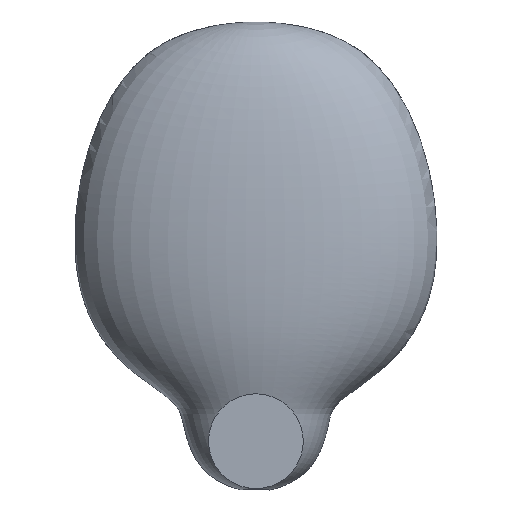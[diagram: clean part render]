
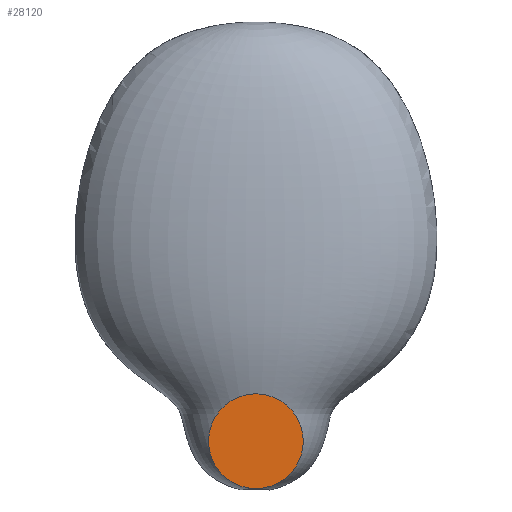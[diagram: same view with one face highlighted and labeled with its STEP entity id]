
A CAD part, top view. The second image highlights one B-rep face of the part: STEP entity #28120.
In plain terms, the highlighted planar face has unit normal (0, 0, 1).
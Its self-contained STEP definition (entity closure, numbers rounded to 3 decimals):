
#5188 = DIRECTION ( 'NONE',  ( 0., -1., 0. ) ) ;
#9320 = VERTEX_POINT ( 'NONE', #46495 ) ;
#10429 = CIRCLE ( 'NONE', #38172, 28.781 ) ;
#11693 = EDGE_LOOP ( 'NONE', ( #59361, #33556 ) ) ;
#11940 = DIRECTION ( 'NONE',  ( 0., -1., 0. ) ) ;
#17997 = CARTESIAN_POINT ( 'NONE',  ( 97.632, -1.111, 67.849 ) ) ;
#19686 = AXIS2_PLACEMENT_3D ( 'NONE', #82291, #70602, #11940 ) ;
#19886 = CARTESIAN_POINT ( 'NONE',  ( 97.632, 27.67, 67.849 ) ) ;
#20754 = VERTEX_POINT ( 'NONE', #33834 ) ;
#26994 = DIRECTION ( 'NONE',  ( 0., 0., 1. ) ) ;
#28120 = ADVANCED_FACE ( 'NONE', ( #64320 ), #51347, .T. ) ;
#29688 = EDGE_CURVE ( 'NONE', #20754, #9320, #10429, .T. ) ;
#33556 = ORIENTED_EDGE ( 'NONE', *, *, #29688, .T. ) ;
#33834 = CARTESIAN_POINT ( 'NONE',  ( 97.632, 56.45, 67.849 ) ) ;
#34318 = AXIS2_PLACEMENT_3D ( 'NONE', #17997, #70124, #5188 ) ;
#37117 = EDGE_CURVE ( 'NONE', #9320, #20754, #75330, .T. ) ;
#38172 = AXIS2_PLACEMENT_3D ( 'NONE', #19886, #26994, #72008 ) ;
#46495 = CARTESIAN_POINT ( 'NONE',  ( 97.632, -1.111, 67.849 ) ) ;
#51347 = PLANE ( 'NONE',  #34318 ) ;
#59361 = ORIENTED_EDGE ( 'NONE', *, *, #37117, .T. ) ;
#64320 = FACE_OUTER_BOUND ( 'NONE', #11693, .T. ) ;
#70124 = DIRECTION ( 'NONE',  ( 0., 0., 1. ) ) ;
#70602 = DIRECTION ( 'NONE',  ( 0., 0., 1. ) ) ;
#72008 = DIRECTION ( 'NONE',  ( 0., -1., 0. ) ) ;
#75330 = CIRCLE ( 'NONE', #19686, 28.781 ) ;
#82291 = CARTESIAN_POINT ( 'NONE',  ( 97.632, 27.67, 67.849 ) ) ;
